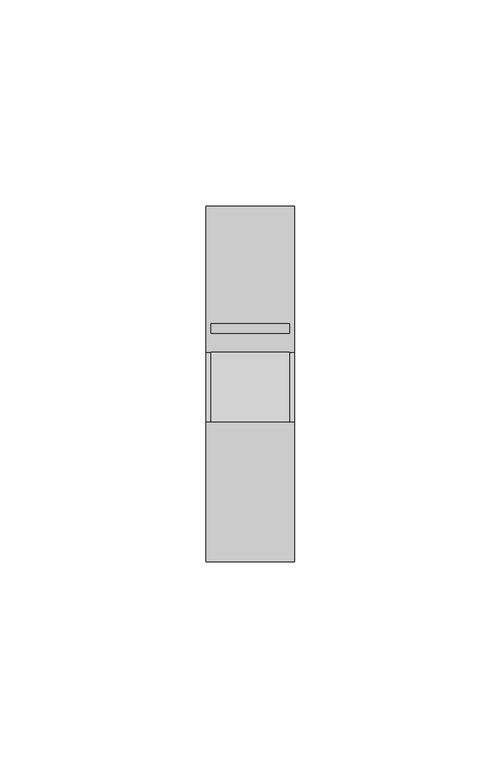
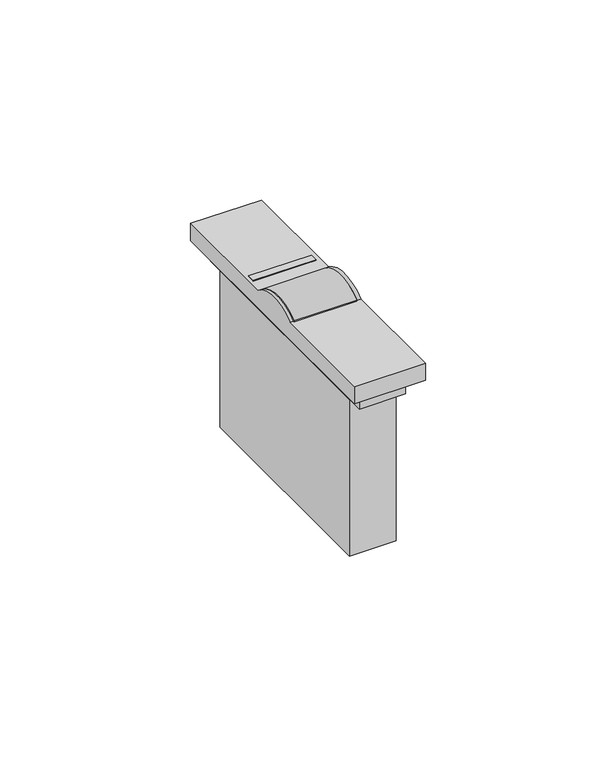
"""IFC4 building model written with IfcOpenShell, lengths in millimetres: switching device geometry, BT_LN-InterruttoreIR_K4431 : Interruttore IR - Art. K4431 - 1M - Cover Sabbia."""

from ifc_helpers import new_model, si_unit, point, frame, frame_2d, origin, origin_with_axes, place, context, project, spatial, polyline, circle_curve, trimmed, segment, composite_curve, outline, extrude, source, transform, mapped, element, save
from ifc_brep_helpers import plane_surface, cylinder_surface, advanced_brep


def switching_device_fe507ace(model_context):
    return source(origin(), model_context, "Body", "SolidModel", [
        extrude(outline(polyline([(-7.0, 39.0), (7.0, 39.0), (7.0, -39.0), (-7.0, -39.0), (-7.0, 39.0)])), frame((0.0, 0.0, 50.0), z_axis=(0.0, 0.0, 1.0), x_axis=(1.0, 0.0, 0.0)), (0.0, 0.0, 1.0), 5.5),
        extrude(outline(polyline([(-7.0, 34.0), (7.0, 34.0), (7.0, -34.0), (-7.0, -34.0), (-7.0, 34.0)])), origin_with_axes(), (0.0, 0.0, 1.0), 50.0),
        extrude(outline(composite_curve([segment(trimmed(circle_curve(frame_2d((-0.7423532, 50.6377207)), 13.3828845), [point((-9.1796278, 61.0258867))], [point((7.6949214, 61.0258867))], False, "CARTESIAN"), True, "CONTINUOUS"), segment(polyline([(7.6949214, 61.0258867), (7.6949214, 56.5112665), (-9.1796278, 56.5112665), (-9.1796278, 61.0258867)]), True, "CONTINUOUS")], self_intersect=False)), frame((-9.5, 0.0, 0.0), z_axis=(1.0, 0.0, 0.0), x_axis=(0.0, 1.0, 0.0)), (0.0, 0.0, 1.0), 19.0),
        extrude(outline(polyline([(-9.5, 12.3005233), (-9.5, 14.6089491), (9.5, 14.6089491), (9.5, 12.3005233), (-9.5, 12.3005233)])), frame((0.0, 0.0, 56.5112665), z_axis=(0.0, 0.0, 1.0), x_axis=(1.0, 0.0, 0.0)), (0.0, 0.0, 1.0), 4.4887335),
        advanced_brep(
        [(-9.5, 14.6089491, 61.0), (-9.5, 14.6089491, 55.5), (9.5, 14.6089491, 55.5), (9.5, 14.6089491, 61.0), (-9.5, 12.3005233, 61.0), (-9.5, 12.3005233, 55.5), (9.5, 12.3005233, 61.0), (9.5, 12.3005233, 55.5), (-10.7, -43.0, 61.0), (10.7, -43.0, 61.0), (10.7, -9.2114006, 61.0), (9.5, -9.2114006, 61.0), (-9.5, -9.1796278, 61.0), (-10.7, -9.2114006, 61.0), (10.7, 43.0, 61.0), (-10.7, 43.0, 61.0), (-10.7, 7.7266943, 61.0), (-9.5, 7.7266943, 61.0), (9.5, 7.6949214, 61.0), (10.7, 7.7266943, 61.0), (-10.7, 43.0, 55.5), (10.7, 43.0, 55.5), (10.7, -43.0, 55.5), (-10.7, -43.0, 55.5), (9.5, 7.6949214, 56.5112665), (-9.5, 7.6949214, 56.5112665), (-9.5, -9.1796278, 56.5112665), (9.5, -9.1796278, 56.5112665)],
        [
            (0, 1),
            (1, 2),
            (2, 3),
            (3, 0),
            (0, 4),
            (4, 5),
            (5, 1),
            (4, 6),
            (6, 7),
            (7, 5),
            (2, 7),
            (6, 3),
            (8, 9),
            (9, 10),
            (10, 11),
            (11, 12),
            (12, 13),
            (13, 8),
            (14, 15),
            (15, 16),
            (16, 17),
            (17, 18),
            (18, 19),
            (19, 14),
            (20, 21),
            (21, 22),
            (22, 23),
            (23, 20),
            (23, 8),
            (13, 16, circle_curve(frame((-10.7, -0.7423532, 50.6377207), z_axis=(-1.0, 0.0, 0.0), x_axis=(0.0, 1.0, 0.0)), 13.3828845)),
            (15, 20),
            (22, 9),
            (21, 14),
            (19, 10, circle_curve(frame((10.7, -0.7423532, 50.6377207), z_axis=(1.0, 0.0, 0.0), x_axis=(0.0, 1.0, 0.0)), 13.3828845)),
            (24, 25),
            (25, 26),
            (26, 27),
            (27, 24),
            (24, 18),
            (17, 25),
            (17, 12, circle_curve(frame((-9.5, -0.7423532, 50.6377207), z_axis=(1.0, 0.0, 0.0), x_axis=(0.0, 1.0, 0.0)), 13.3828845)),
            (12, 26),
            (11, 27),
            (11, 18, circle_curve(frame((9.5, -0.7423532, 50.6377207), z_axis=(-1.0, 0.0, 0.0), x_axis=(0.0, 1.0, 0.0)), 13.3828845)),
        ],
        [
            plane_surface(frame((9.5, 14.6089491, 61.0), z_axis=(0.0, -1.0, 0.0), x_axis=(0.0, 0.0, -1.0))),
            plane_surface(frame((-9.5, 14.6089491, 61.0), z_axis=(1.0, 0.0, 0.0), x_axis=(0.0, 0.0, -1.0))),
            plane_surface(frame((-9.5, 12.3005233, 61.0), z_axis=(0.0, 1.0, 0.0), x_axis=(0.0, 0.0, -1.0))),
            plane_surface(frame((9.5, 12.3005233, 61.0), z_axis=(-1.0, 0.0, 0.0), x_axis=(0.0, 0.0, -1.0))),
            plane_surface(frame((-10.7, 2000.0, 61.0), z_axis=(0.0, 0.0, 1.0), x_axis=(0.0, -1.0, 0.0))),
            plane_surface(frame((-10.7, 2000.0, 55.5), z_axis=(0.0, 0.0, -1.0), x_axis=(0.0, 1.0, 0.0))),
            plane_surface(frame((-10.7, 43.0, 61.0), z_axis=(-1.0, 0.0, 0.0), x_axis=(0.0, 0.0, -1.0))),
            plane_surface(frame((-10.7, -43.0, 61.0), z_axis=(0.0, -1.0, 0.0), x_axis=(0.0, 0.0, -1.0))),
            plane_surface(frame((10.7, -43.0, 61.0), z_axis=(1.0, 0.0, 0.0), x_axis=(0.0, 0.0, -1.0))),
            plane_surface(frame((10.7, 43.0, 61.0), z_axis=(0.0, 1.0, 0.0), x_axis=(0.0, 0.0, -1.0))),
            plane_surface(frame((-13.8598649, 7.6949214, 56.5112665), z_axis=(0.0, 0.0, 1.0), x_axis=(1.0, 0.0, 0.0))),
            plane_surface(frame((9.5, 7.6949214, 61.0), z_axis=(0.0, -1.0, 0.0), x_axis=(0.0, 0.0, -1.0))),
            plane_surface(frame((-9.5, 7.6949214, 61.0), z_axis=(1.0, 0.0, 0.0), x_axis=(0.0, 0.0, -1.0))),
            plane_surface(frame((-9.5, -9.1796278, 61.0), z_axis=(0.0, 1.0, 0.0), x_axis=(0.0, 0.0, -1.0))),
            plane_surface(frame((9.5, -9.1796278, 61.0), z_axis=(-1.0, 0.0, 0.0), x_axis=(0.0, 0.0, -1.0))),
            cylinder_surface(frame((-10.7, -0.7423532, 50.6377207), z_axis=(1.0, 0.0, 0.0), x_axis=(0.0, 1.0, 0.0)), 13.3828845),
            cylinder_surface(frame((9.5, -0.7423532, 50.6377207), z_axis=(1.0, 0.0, 0.0), x_axis=(0.0, 1.0, 0.0)), 13.3828845),
        ],
        [
            (0, [[1, 2, 3, 4]]),
            (1, [[-1, 5, 6, 7]]),
            (2, [[-6, 8, 9, 10]]),
            (3, [[-3, 11, -9, 12]]),
            (4, [[13, 14, 15, 16, 17, 18]]),
            (4, [[19, 20, 21, 22, 23, 24], [-4, -12, -8, -5]]),
            (5, [[25, 26, 27, 28], [-2, -7, -10, -11]]),
            (6, [[-28, 29, -18, 30, -20, 31]]),
            (7, [[-13, -29, -27, 32]]),
            (8, [[-26, 33, -24, 34, -14, -32]]),
            (9, [[-19, -33, -25, -31]]),
            (10, [[35, 36, 37, 38]]),
            (11, [[-35, 39, -22, 40]]),
            (12, [[-36, -40, 41, 42]]),
            (13, [[-37, -42, -16, 43]]),
            (14, [[-38, -43, 44, -39]]),
            (15, [[-41, -21, -30, -17]]),
            (16, [[-34, -23, -44, -15]]),
        ],
    ),
    ])


if __name__ == "__main__":
    model = new_model("IFC4")
    model_context = context("Model", 3, world=origin())
    ifc_project = project(units=[si_unit("LENGTHUNIT", "METRE", prefix="MILLI")], contexts=[model_context])
    site = spatial("IfcSite", under=ifc_project)
    building = spatial("IfcBuilding", under=site)
    placement = place(None, origin())
    switching_device_shape = switching_device_fe507ace(model_context)
    element("IfcSwitchingDevice", 1, ObjectType="BT_LN-InterruttoreIR_K4431 : Interruttore IR - Art. K4431 - 1M - Cover Sabbia", at=placement, inside=building, context=model_context, shape_type="MappedRepresentation", body=[
        mapped(switching_device_shape, transform((0.0, 0.0, 0.0), x_axis=(1.0, 0.0, 0.0), y_axis=(0.0, 1.0, 0.0), z_axis=(0.0, 0.0, 1.0))),
    ])
    save(model, "model.ifc")
